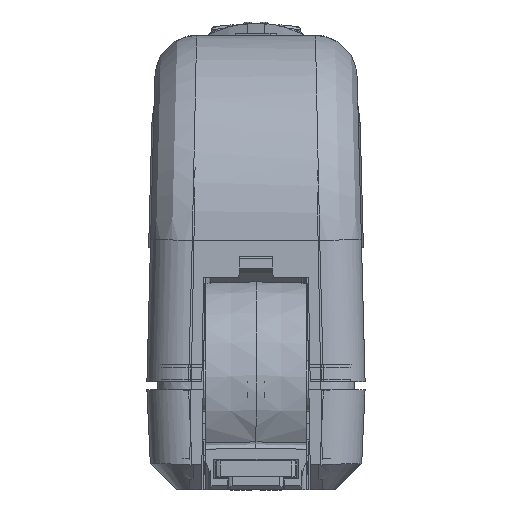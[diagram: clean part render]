
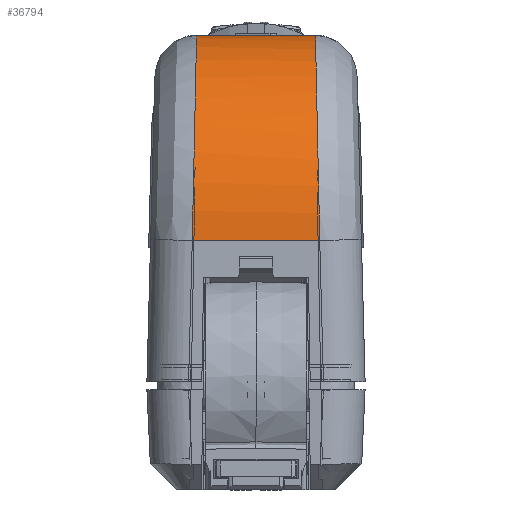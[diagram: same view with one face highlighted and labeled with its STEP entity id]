
A CAD part, left-side view. The second image highlights one B-rep face of the part: STEP entity #36794.
In plain terms, the highlighted cylindrical face has radius 25 mm (diameter 50 mm), a partial arc.
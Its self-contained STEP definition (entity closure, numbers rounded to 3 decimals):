
#168=DIRECTION('',(0.,-1.,0.));
#169=VECTOR('',#168,14.259);
#170=CARTESIAN_POINT('',(-198.699,7.129,54.5));
#171=LINE('',#170,#169);
#456=CARTESIAN_POINT('',(-198.699,7.129,54.5));
#457=CARTESIAN_POINT('',(-199.025,7.133,54.5));
#458=CARTESIAN_POINT('',(-199.725,7.126,54.487));
#459=CARTESIAN_POINT('',(-200.916,7.132,54.412));
#460=CARTESIAN_POINT('',(-202.261,7.135,54.259));
#461=CARTESIAN_POINT('',(-203.706,7.14,54.008));
#462=CARTESIAN_POINT('',(-205.141,7.147,53.671));
#463=CARTESIAN_POINT('',(-206.548,7.156,53.251));
#464=CARTESIAN_POINT('',(-207.929,7.166,52.749));
#465=CARTESIAN_POINT('',(-209.279,7.178,52.167));
#466=CARTESIAN_POINT('',(-210.592,7.192,51.507));
#467=CARTESIAN_POINT('',(-211.864,7.208,50.77));
#468=CARTESIAN_POINT('',(-213.091,7.225,49.96));
#469=CARTESIAN_POINT('',(-214.267,7.243,49.08));
#470=CARTESIAN_POINT('',(-215.39,7.263,48.132));
#471=CARTESIAN_POINT('',(-216.456,7.284,47.119));
#472=CARTESIAN_POINT('',(-217.46,7.307,46.046));
#473=CARTESIAN_POINT('',(-218.399,7.33,44.916));
#474=CARTESIAN_POINT('',(-219.271,7.355,43.732));
#475=CARTESIAN_POINT('',(-220.071,7.381,42.499));
#476=CARTESIAN_POINT('',(-220.798,7.408,41.221));
#477=CARTESIAN_POINT('',(-221.448,7.435,39.903));
#478=CARTESIAN_POINT('',(-222.02,7.464,38.549));
#479=CARTESIAN_POINT('',(-222.511,7.493,37.163));
#480=CARTESIAN_POINT('',(-222.92,7.522,35.751));
#481=CARTESIAN_POINT('',(-223.246,7.552,34.317));
#482=CARTESIAN_POINT('',(-223.486,7.583,32.867));
#483=CARTESIAN_POINT('',(-223.641,7.613,31.405));
#484=CARTESIAN_POINT('',(-223.687,7.634,30.426));
#485=CARTESIAN_POINT('',(-223.696,7.644,29.936));
#487=CARTESIAN_POINT('',(-223.696,-7.644,29.936));
#488=CARTESIAN_POINT('',(-223.687,-7.634,30.426));
#489=CARTESIAN_POINT('',(-223.641,-7.613,31.405));
#490=CARTESIAN_POINT('',(-223.486,-7.583,32.867));
#491=CARTESIAN_POINT('',(-223.246,-7.552,34.317));
#492=CARTESIAN_POINT('',(-222.92,-7.522,35.751));
#493=CARTESIAN_POINT('',(-222.511,-7.493,37.163));
#494=CARTESIAN_POINT('',(-222.02,-7.464,38.549));
#495=CARTESIAN_POINT('',(-221.448,-7.435,39.903));
#496=CARTESIAN_POINT('',(-220.798,-7.408,41.221));
#497=CARTESIAN_POINT('',(-220.071,-7.381,42.499));
#498=CARTESIAN_POINT('',(-219.271,-7.355,43.732));
#499=CARTESIAN_POINT('',(-218.399,-7.33,44.915));
#500=CARTESIAN_POINT('',(-217.46,-7.307,46.046));
#501=CARTESIAN_POINT('',(-216.456,-7.284,47.119));
#502=CARTESIAN_POINT('',(-215.391,-7.263,48.131));
#503=CARTESIAN_POINT('',(-214.268,-7.243,49.079));
#504=CARTESIAN_POINT('',(-213.091,-7.225,49.96));
#505=CARTESIAN_POINT('',(-211.864,-7.208,50.77));
#506=CARTESIAN_POINT('',(-210.592,-7.192,51.506));
#507=CARTESIAN_POINT('',(-209.279,-7.178,52.167));
#508=CARTESIAN_POINT('',(-207.93,-7.166,52.749));
#509=CARTESIAN_POINT('',(-206.548,-7.156,53.251));
#510=CARTESIAN_POINT('',(-205.141,-7.147,53.671));
#511=CARTESIAN_POINT('',(-203.707,-7.14,54.008));
#512=CARTESIAN_POINT('',(-202.262,-7.135,54.259));
#513=CARTESIAN_POINT('',(-200.916,-7.132,54.412));
#514=CARTESIAN_POINT('',(-199.725,-7.126,54.487));
#515=CARTESIAN_POINT('',(-199.025,-7.133,54.5));
#516=CARTESIAN_POINT('',(-198.699,-7.129,54.5));
#538=DIRECTION('',(0.,-1.,0.));
#539=VECTOR('',#538,15.288);
#540=CARTESIAN_POINT('',(-223.696,7.644,29.936));
#541=LINE('',#540,#539);
#34082=CARTESIAN_POINT('',(-223.696,7.644,
29.936));
#34083=CARTESIAN_POINT('',(-223.696,-7.644,
29.936));
#34084=VERTEX_POINT('',#34082);
#34085=VERTEX_POINT('',#34083);
#34086=CARTESIAN_POINT('',(-198.699,7.129,
54.5));
#34087=CARTESIAN_POINT('',(-198.699,-7.129,
54.5));
#34088=VERTEX_POINT('',#34086);
#34089=VERTEX_POINT('',#34087);
#36781=CARTESIAN_POINT('',(-198.699,12.776,29.5));
#36782=DIRECTION('',(0.,-1.,0.));
#36783=DIRECTION('',(0.,0.,1.));
#36784=AXIS2_PLACEMENT_3D('',#36781,#36782,#36783);
#36785=CYLINDRICAL_SURFACE('',#36784,25.);
#36787=ORIENTED_EDGE('',*,*,#36786,.F.);
#36788=ORIENTED_EDGE('',*,*,#36764,.F.);
#36789=ORIENTED_EDGE('',*,*,#36162,.T.);
#36791=ORIENTED_EDGE('',*,*,#36790,.F.);
#36792=EDGE_LOOP('',(#36787,#36788,#36789,#36791));
#36793=FACE_OUTER_BOUND('',#36792,.F.);
#36794=ADVANCED_FACE('',(#36793),#36785,.T.);
#486=B_SPLINE_CURVE_WITH_KNOTS('',3,(#456,#457,#458,#459,#460,#461,#462,#463,
#464,#465,#466,#467,#468,#469,#470,#471,#472,#473,#474,#475,#476,#477,#478,#479,
#480,#481,#482,#483,#484,#485),.UNSPECIFIED.,.F.,.F.,(4,1,1,1,1,1,1,1,1,1,1,1,1,
1,1,1,1,1,1,1,1,1,1,1,1,1,1,4),(0.,0.037,0.074,
0.111,0.148,0.185,0.222,
0.259,0.296,0.333,0.37,
0.407,0.444,0.481,0.519,
0.556,0.593,0.63,0.667,
0.704,0.741,0.778,0.815,
0.852,0.889,0.926,0.963,1.),
.UNSPECIFIED.);
#517=B_SPLINE_CURVE_WITH_KNOTS('',3,(#487,#488,#489,#490,#491,#492,#493,#494,
#495,#496,#497,#498,#499,#500,#501,#502,#503,#504,#505,#506,#507,#508,#509,#510,
#511,#512,#513,#514,#515,#516),.UNSPECIFIED.,.F.,.F.,(4,1,1,1,1,1,1,1,1,1,1,1,1,
1,1,1,1,1,1,1,1,1,1,1,1,1,1,4),(0.,0.037,0.074,
0.111,0.148,0.185,0.222,
0.259,0.296,0.333,0.37,
0.407,0.444,0.481,0.519,
0.556,0.593,0.63,0.667,
0.704,0.741,0.778,0.815,
0.852,0.889,0.926,0.963,1.),
.UNSPECIFIED.);
#36162=EDGE_CURVE('',#34088,#34089,#171,.T.);
#36764=EDGE_CURVE('',#34088,#34084,#486,.T.);
#36786=EDGE_CURVE('',#34084,#34085,#541,.T.);
#36790=EDGE_CURVE('',#34085,#34089,#517,.T.);
